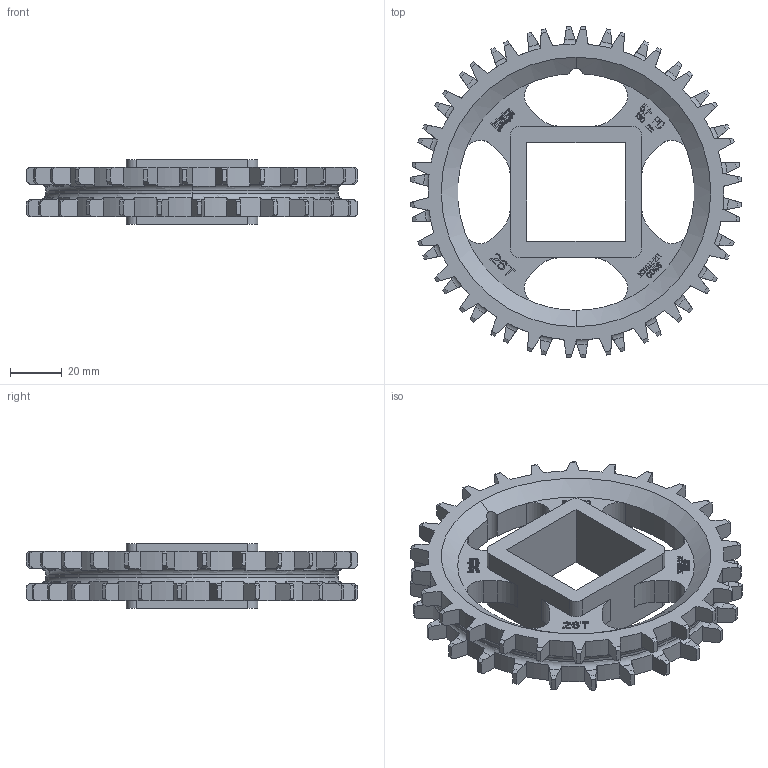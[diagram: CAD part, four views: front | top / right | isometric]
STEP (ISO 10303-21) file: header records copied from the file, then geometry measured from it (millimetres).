
FILE_DESCRIPTION((''),'2;1');
FILE_NAME('S1100_EZ_TRACKCLEAN_51X15_40_SQ','2008-12-12T',('jmumphre'),(''),'PRO/ENGINEER BY PARAMETRIC TECHNOLOGY CORPORATION, 2008150','PRO/ENGINEER BY PARAMETRIC TECHNOLOGY CORPORATION, 2008150','');
FILE_SCHEMA(('CONFIG_CONTROL_DESIGN'));
Length unit declared in the file: inch
Products named in the file (1): S1100_EZ_TRACKCLEAN_51X15_40_SQ
Bounding box: 127.93 x 127.99 x 24.89 mm (x, y, z)
Volume: 110225.6 mm3; surface area: 36759.8 mm2
Topology: 1 solids, 1 shells, 1366 faces, 3934 edges, 2616 vertices
Faces by surface type: plane 1130, cylinder 176, cone 56, torus 4
Entity records: 45238 total; most frequent: CARTESIAN_POINT 9360, ORIENTED_EDGE 7868, DIRECTION 6870, EDGE_CURVE 3934, VECTOR 3194, LINE 3194, VERTEX_POINT 2616, AXIS2_PLACEMENT_3D 1838
